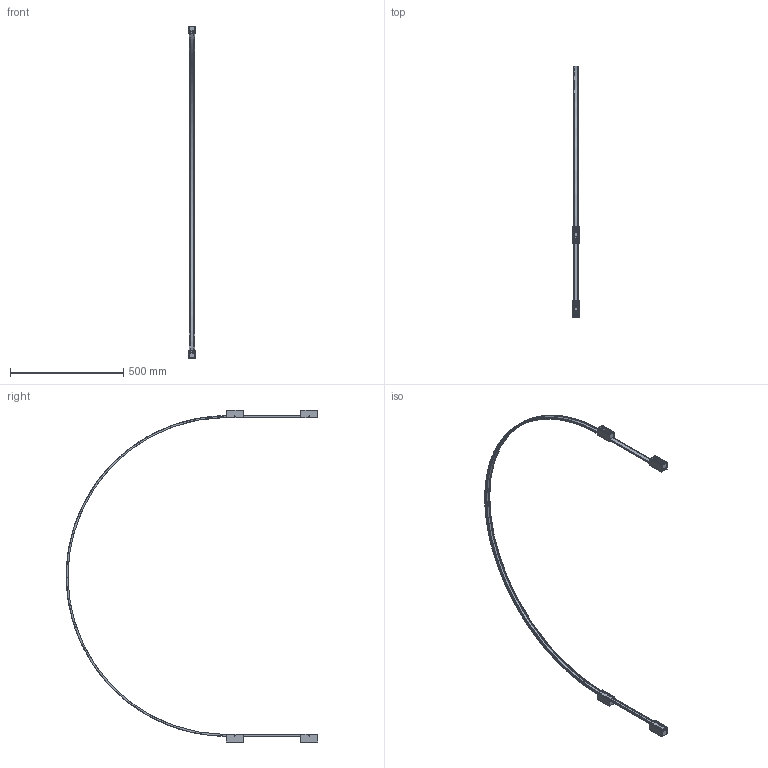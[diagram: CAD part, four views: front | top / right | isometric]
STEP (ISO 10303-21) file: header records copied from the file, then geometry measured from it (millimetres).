
FILE_DESCRIPTION(/* description */ (''),/* implementation_level */ '2;1');
FILE_NAME(/* name */ 'A138__~3',/* time_stamp */ '2024-07-02T12:11:11+02:00',/* author */ (''),/* organization */ (''),/* preprocessor_version */ 'ST-DEVELOPER v16.5',/* originating_system */ '',/* authorisation */ '');
FILE_SCHEMA (('AUTOMOTIVE_DESIGN'));
Length unit declared in the file: millimetre
Products named in the file (10): Configurazione 3; P22UT.0088 (blocchetto di fissaggio a muro ALL  + cover per blocchett
o di fissaggio ALL)_P22UT.0088 - passante; 3300.0427000.00 (blocchetto di fissaggio a muro ALL 30x32,8mm H 75,5m
m)_3307.0427075.00; socket set screw flat point_iso_ISO 4026 - M3 x 6-N; 3300.0428000.00 (profilo quadro a U ALL 35x35mm H 75mm sp 2 con fori 
M4)_3306.0428075.00; P22UT.0088 (blocchetto di fissaggio a muro ALL  + cover per blocchett
o di fissaggio ALL)_P22UT.0088 - con chiusura inferiore; 4504.0008000.00 (bloccacavo a ponticello NY bianco Steab 5922-16)_450
4.0008000.00; sheet metal screws_din_Tapping screw DIN 7049-ST3.5x9.5-C-H-N; 3300.0429000.00 (piastra di chiusura ALL 27x10mm sp 1,2)_3301.0429000.
00; Profilo curvato_Configurazione 3
Assembly tree (17 placements, depth 3):
  Configurazione 3
    P22UT.0088 (blocchetto di fissaggio a muro ALL  + cover per blocchett
o di fissaggio ALL)_P22UT.0088 - passante  x2
      3300.0427000.00 (blocchetto di fissaggio a muro ALL 30x32,8mm H 75,5m
m)_3307.0427075.00
      socket set screw flat point_iso_ISO 4026 - M3 x 6-N
      3300.0428000.00 (profilo quadro a U ALL 35x35mm H 75mm sp 2 con fori 
M4)_3306.0428075.00
    P22UT.0088 (blocchetto di fissaggio a muro ALL  + cover per blocchett
o di fissaggio ALL)_P22UT.0088 - con chiusura inferiore  x2
      3300.0427000.00 (blocchetto di fissaggio a muro ALL 30x32,8mm H 75,5m
m)_3307.0427075.00
      4504.0008000.00 (bloccacavo a ponticello NY bianco Steab 5922-16)_450
4.0008000.00
      socket set screw flat point_iso_ISO 4026 - M3 x 6-N
      sheet metal screws_din_Tapping screw DIN 7049-ST3.5x9.5-C-H-N
      3300.0428000.00 (profilo quadro a U ALL 35x35mm H 75mm sp 2 con fori 
M4)_3306.0428075.00
      3300.0429000.00 (piastra di chiusura ALL 27x10mm sp 1,2)_3301.0429000.
00
    Profilo curvato_Configurazione 3
Bounding box: 35 x 1110.9 x 1466.56 mm (x, y, z)
Volume: 470788.2 mm3; surface area: 544518.9 mm2
Topology: 26 solids, 26 shells, 2105 faces, 5069 edges, 3008 vertices
Faces by surface type: bspline 1559, plane 546
Entity records: 28052 total; most frequent: CARTESIAN_POINT 18827, ORIENTED_EDGE 3060, EDGE_CURVE 1530, VERTEX_POINT 908, B_SPLINE_CURVE_WITH_KNOTS 809, EDGE_LOOP 674, ADVANCED_FACE 643, FACE_OUTER_BOUND 643
